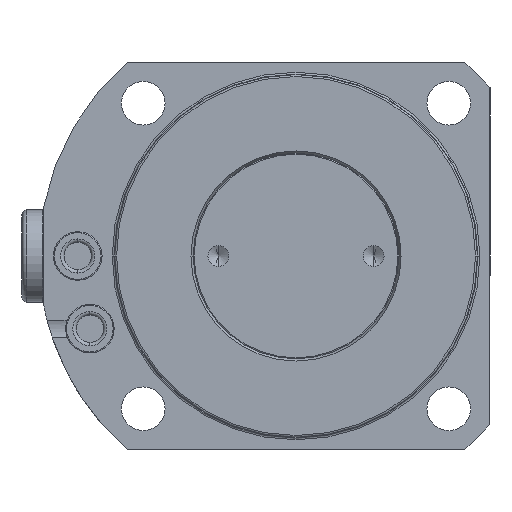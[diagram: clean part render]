
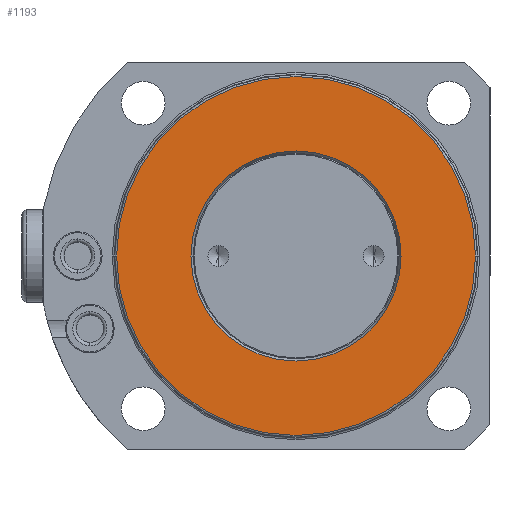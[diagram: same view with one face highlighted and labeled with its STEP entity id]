
A CAD part, front view. The second image highlights one B-rep face of the part: STEP entity #1193.
In plain terms, the highlighted planar face has unit normal (0, -1, 0).
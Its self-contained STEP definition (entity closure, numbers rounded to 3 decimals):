
#484=PLANE('',#4710);
#546=FACE_BOUND('',#1765,.T.);
#547=FACE_BOUND('',#1766,.T.);
#1193=ADVANCED_FACE('',(#546,#547),#484,.T.);
#1765=EDGE_LOOP('',(#2515,#2516));
#1766=EDGE_LOOP('',(#2517,#2518));
#2515=ORIENTED_EDGE('',*,*,#3764,.T.);
#2516=ORIENTED_EDGE('',*,*,#3823,.T.);
#2517=ORIENTED_EDGE('',*,*,#3759,.F.);
#2518=ORIENTED_EDGE('',*,*,#3824,.F.);
#3312=VERTEX_POINT('',#7230);
#3313=VERTEX_POINT('',#7231);
#3316=VERTEX_POINT('',#7239);
#3317=VERTEX_POINT('',#7241);
#3759=EDGE_CURVE('',#3312,#3313,#4206,.T.);
#3764=EDGE_CURVE('',#3317,#3316,#4210,.T.);
#3823=EDGE_CURVE('',#3316,#3317,#4239,.T.);
#3824=EDGE_CURVE('',#3313,#3312,#4240,.T.);
#4206=CIRCLE('',#4659,37.);
#4210=CIRCLE('',#4664,21.662);
#4239=CIRCLE('',#4707,21.662);
#4240=CIRCLE('',#4709,37.);
#4659=AXIS2_PLACEMENT_3D('',#7229,#5666,#5667);
#4664=AXIS2_PLACEMENT_3D('',#7240,#5677,#5678);
#4707=AXIS2_PLACEMENT_3D('',#7402,#5782,#5783);
#4709=AXIS2_PLACEMENT_3D('',#7404,#5786,#5787);
#4710=AXIS2_PLACEMENT_3D('',#7405,#5788,#5789);
#5666=DIRECTION('',(0.,1.,0.));
#5667=DIRECTION('',(-1.,0.,0.));
#5677=DIRECTION('',(0.,1.,0.));
#5678=DIRECTION('',(-1.,0.,0.));
#5782=DIRECTION('',(0.,1.,0.));
#5783=DIRECTION('',(-1.,0.,0.));
#5786=DIRECTION('',(0.,1.,0.));
#5787=DIRECTION('',(-1.,0.,0.));
#5788=DIRECTION('',(0.,-1.,0.));
#5789=DIRECTION('',(-1.,0.,0.));
#7229=CARTESIAN_POINT('',(0.,3.999,0.));
#7230=CARTESIAN_POINT('',(-37.,3.999,0.));
#7231=CARTESIAN_POINT('',(37.,3.999,0.));
#7239=CARTESIAN_POINT('',(-21.662,3.999,0.));
#7240=CARTESIAN_POINT('',(0.,3.999,0.));
#7241=CARTESIAN_POINT('',(21.662,3.999,0.));
#7402=CARTESIAN_POINT('',(0.,3.999,0.));
#7404=CARTESIAN_POINT('',(0.,3.999,0.));
#7405=CARTESIAN_POINT('',(0.,3.999,0.));
